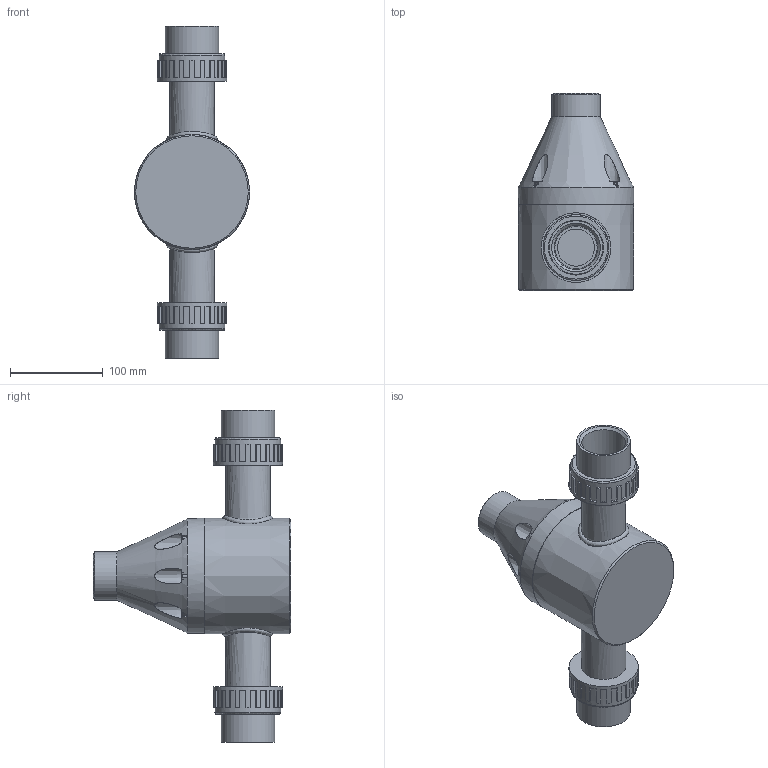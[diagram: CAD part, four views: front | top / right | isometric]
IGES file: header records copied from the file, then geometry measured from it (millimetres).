
Start section: SolidWorks IGES file using analytic representation for surfaces
Global section: file name: F:\Griffco-Valve\Griffco_current-projects\GV_web-files_2015\G Series Union\GBP1500-UNION.IGS; native system: SolidWorks 2014; preprocessor: SolidWorks 2014; author: Dan; date: 160915.193054; units: inch
Bounding box: 124.46 x 213.36 x 358.65 mm (x, y, z)
Surface area: 180184.6 mm2 (no closed solid volume)
Topology: 0 solids, 0 shells, 346 faces, 1799 edges, 1756 vertices
Faces by surface type: bspline 297, revolution 49
